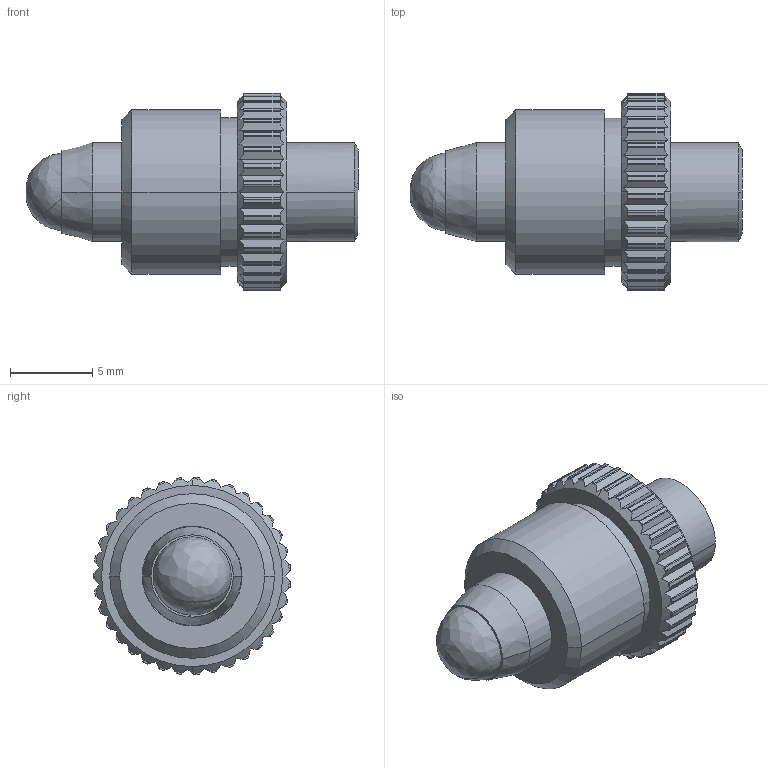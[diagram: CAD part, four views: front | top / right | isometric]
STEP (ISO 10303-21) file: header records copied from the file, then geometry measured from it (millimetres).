
FILE_DESCRIPTION (( 'STEP AP203' ), '1' );
FILE_NAME ('9SH127M-7.STEP', '2008-10-24T09:25:17', ( 'Darius' ), ( '' ), 'SwSTEP 2.0', 'SolidWorks 2003240', '' );
FILE_SCHEMA (( 'CONFIG_CONTROL_DESIGN' ));
Length unit declared in the file: millimetre
Products named in the file (1): 9SH127M-7
Bounding box: 20.16 x 11.98 x 12 mm (x, y, z)
Volume: 1020.7 mm3; surface area: 803 mm2
Topology: 1 solids, 1 shells, 303 faces, 881 edges, 582 vertices
Faces by surface type: plane 158, cylinder 124, cone 19, bspline 2
Entity records: 10440 total; most frequent: CARTESIAN_POINT 2339, ORIENTED_EDGE 1754, DIRECTION 1681, EDGE_CURVE 877, AXIS2_PLACEMENT_3D 654, VERTEX_POINT 582, VECTOR 373, LINE 373
